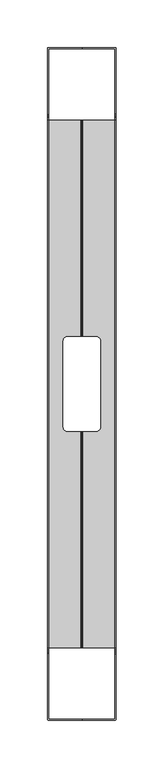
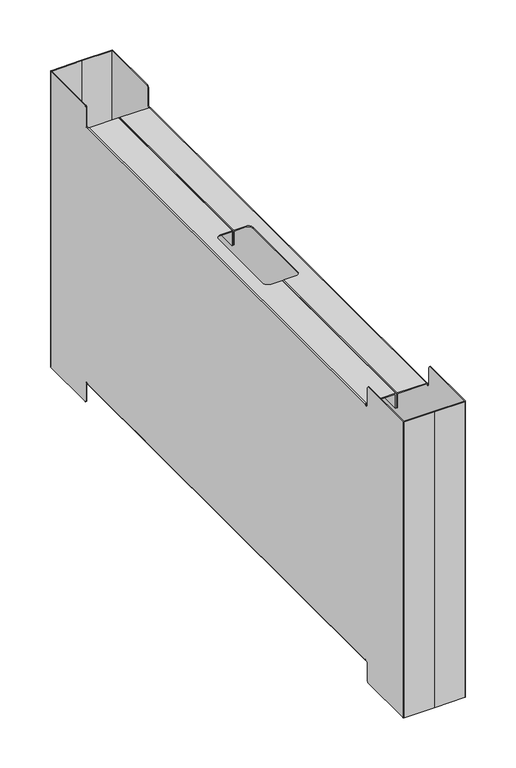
"""IFC4 building model written with IfcOpenShell, lengths in millimetres: furniture geometry, FREZZA_POP AD_Carter_for bench desk : Bracket_ZGBI - Embossed White."""

from ifc_helpers import new_model, si_unit, frame, origin, place, context, project, spatial, polyline, circle_curve, source, transform, mapped, element, save
from ifc_brep_helpers import plane_surface, cylinder_surface, revolved_surface, advanced_brep


def furniture_1b61114b(model_context):
    return source(origin(), model_context, "Body", "AdvancedBrep", [
        advanced_brep(
        [(1751.0, -237.05, 335.5), (1751.0, -237.05, 335.0), (1752.0, -237.05, 335.0), (1752.0, -237.05, 335.55), (1785.95, -237.05, 335.55), (1785.95, -237.05, 318.55), (1786.95, -237.05, 318.55), (1786.95, -237.05, 335.5), (1785.9, -237.05, 336.55), (1752.05, -237.05, 336.55), (1752.0, -237.05, 24.45), (1752.0, -237.05, 25.0), (1751.0, -237.05, 25.0), (1751.0, -237.05, 24.5), (1752.05, -237.05, 23.45), (1785.9, -237.05, 23.45), (1786.95, -237.05, 24.5), (1786.95, -237.05, 41.45), (1785.95, -237.05, 41.45), (1785.95, -237.05, 24.45), (1752.0, 316.05, 335.55), (1752.0, 316.05, 335.0), (1751.0, 316.05, 335.0), (1751.0, 316.05, 335.5), (1752.05, 316.05, 336.55), (1785.9, 316.05, 336.55), (1786.95, 316.05, 335.5), (1786.95, 316.05, 318.55), (1785.95, 316.05, 318.55), (1785.95, 316.05, 335.55), (1751.0, 316.05, 24.5), (1751.0, 316.05, 25.0), (1752.0, 316.05, 25.0), (1752.0, 316.05, 24.45), (1785.95, 316.05, 24.45), (1785.95, 316.05, 41.45), (1786.95, 316.05, 41.45), (1786.95, 316.05, 24.5), (1785.9, 316.05, 23.45), (1752.05, 316.05, 23.45), (1785.9, -10.5, 336.55), (1772.0, -10.5, 336.55), (1767.0, -5.5, 336.55), (1767.0, 84.5, 336.55), (1772.0, 89.5, 336.55), (1785.9, 89.5, 336.55), (1786.95, 89.5, 335.5), (1786.95, -10.5, 335.5), (1786.95, 89.5, 318.55), (1786.95, -10.5, 318.55), (1785.95, 89.5, 318.55), (1785.95, -10.5, 318.55), (1785.95, 89.5, 335.55), (1785.95, -10.5, 335.55), (1772.0, 89.5, 335.55), (1767.0, 84.5, 335.55), (1767.0, -5.5, 335.55), (1772.0, -10.5, 335.55), (1752.0, -239.5, 335.0), (1752.0, -241.5, 337.0), (1752.0, -241.5, 358.0), (1752.0, -243.5, 360.0), (1752.0, -312.05, 360.0), (1752.0, -312.05, 0.0), (1752.0, -243.5, 0.0), (1752.0, -241.5, 2.0), (1752.0, -241.5, 23.0), (1752.0, -239.5, 25.0), (1752.0, 318.5, 25.0), (1752.0, 320.5, 23.0), (1752.0, 320.5, 2.0), (1752.0, 322.5, 0.0), (1752.0, 391.05, 0.0), (1752.0, 391.05, 360.0), (1752.0, 322.5, 360.0), (1752.0, 320.5, 358.0), (1752.0, 320.5, 337.0), (1752.0, 318.5, 335.0), (1751.0, 318.5, 335.0), (1751.0, 320.5, 337.0), (1751.0, 320.5, 358.0), (1751.0, 322.5, 360.0), (1751.0, 391.0, 360.0), (1751.0, 391.0, 0.0), (1751.0, 322.5, 0.0), (1751.0, 320.5, 2.0), (1751.0, 320.5, 23.0), (1751.0, 318.5, 25.0), (1751.0, -239.5, 25.0), (1751.0, -241.5, 23.0), (1751.0, -241.5, 2.0), (1751.0, -243.5, 0.0), (1751.0, -312.05, 0.0), (1751.0, -312.05, 360.0), (1751.0, -243.5, 360.0), (1751.0, -241.5, 358.0), (1751.0, -241.5, 337.0), (1751.0, -239.5, 335.0), (1785.95, -10.5, 24.45), (1772.0, -10.5, 24.45), (1767.0, -5.5, 24.45), (1767.0, 84.5, 24.45), (1772.0, 89.5, 24.45), (1785.95, 89.5, 24.45), (1785.95, 89.5, 41.45), (1785.95, -10.5, 41.45), (1786.95, 89.5, 41.45), (1786.95, -10.5, 41.45), (1786.95, 89.5, 24.5), (1786.95, -10.5, 24.5), (1785.9, 89.5, 23.45), (1785.9, -10.5, 23.45), (1772.0, 89.5, 23.45), (1767.0, 84.5, 23.45), (1767.0, -5.5, 23.45), (1772.0, -10.5, 23.45), (1787.0, 391.05, 360.0), (1787.0, 392.05, 360.0), (1752.05, 392.05, 360.0), (1787.0, -313.05, 360.0), (1787.0, -312.05, 360.0), (1752.05, -313.05, 360.0), (1752.05, 392.05, 0.0), (1787.0, 392.05, 0.0), (1787.0, 391.05, 0.0), (1787.0, -313.05, 0.0), (1752.0, -313.05, 0.0), (1787.0, -312.05, 0.0)],
        [
            (0, 1),
            (1, 2),
            (2, 3),
            (3, 4),
            (4, 5),
            (5, 6),
            (6, 7),
            (7, 8, circle_curve(frame((1785.9, -237.05, 335.5), z_axis=(0.0, -1.0, 0.0), x_axis=(1.0, 0.0, 0.0)), 1.05)),
            (8, 9),
            (9, 0, circle_curve(frame((1752.05, -237.05, 335.5), z_axis=(0.0, -1.0, 0.0), x_axis=(1.0, 0.0, 0.0)), 1.05)),
            (10, 11),
            (11, 12),
            (12, 13),
            (13, 14, circle_curve(frame((1752.05, -237.05, 24.5), z_axis=(0.0, -1.0, 0.0), x_axis=(1.0, 0.0, 0.0)), 1.05)),
            (14, 15),
            (15, 16, circle_curve(frame((1785.9, -237.05, 24.5), z_axis=(0.0, -1.0, 0.0), x_axis=(1.0, 0.0, 0.0)), 1.05)),
            (16, 17),
            (17, 18),
            (18, 19),
            (19, 10),
            (20, 21),
            (21, 22),
            (22, 23),
            (23, 24, circle_curve(frame((1752.05, 316.05, 335.5), z_axis=(0.0, 1.0, 0.0), x_axis=(1.0, 0.0, 0.0)), 1.05)),
            (24, 25),
            (25, 26, circle_curve(frame((1785.9, 316.05, 335.5), z_axis=(0.0, 1.0, 0.0), x_axis=(1.0, 0.0, 0.0)), 1.05)),
            (26, 27),
            (27, 28),
            (28, 29),
            (29, 20),
            (30, 31),
            (31, 32),
            (32, 33),
            (33, 34),
            (34, 35),
            (35, 36),
            (36, 37),
            (37, 38, circle_curve(frame((1785.9, 316.05, 24.5), z_axis=(0.0, 1.0, 0.0), x_axis=(1.0, 0.0, 0.0)), 1.05)),
            (38, 39),
            (39, 30, circle_curve(frame((1752.05, 316.05, 24.5), z_axis=(0.0, 1.0, 0.0), x_axis=(1.0, 0.0, 0.0)), 1.05)),
            (9, 24),
            (23, 0),
            (8, 40),
            (40, 41),
            (41, 42, circle_curve(frame((1772.0, -5.5, 336.55), z_axis=(0.0, 0.0, -1.0), x_axis=(1.0, 0.0, 0.0)), 5.0)),
            (42, 43),
            (43, 44, circle_curve(frame((1772.0, 84.5, 336.55), z_axis=(0.0, 0.0, -1.0), x_axis=(1.0, 0.0, 0.0)), 5.0)),
            (44, 45),
            (45, 25),
            (45, 46, circle_curve(frame((1785.9, 89.5, 335.5), z_axis=(0.0, 1.0, 0.0), x_axis=(1.0, 0.0, 0.0)), 1.05)),
            (46, 26),
            (7, 47),
            (47, 40, circle_curve(frame((1785.9, -10.5, 335.5), z_axis=(0.0, -1.0, 0.0), x_axis=(1.0, 0.0, 0.0)), 1.05)),
            (46, 48),
            (48, 27),
            (6, 49),
            (49, 47),
            (48, 50),
            (50, 28),
            (5, 51),
            (51, 49),
            (50, 52),
            (52, 29),
            (4, 53),
            (53, 51),
            (3, 20),
            (52, 54),
            (54, 55, circle_curve(frame((1772.0, 84.5, 335.55), z_axis=(0.0, 0.0, 1.0), x_axis=(1.0, 0.0, 0.0)), 5.0)),
            (55, 56),
            (56, 57, circle_curve(frame((1772.0, -5.5, 335.55), z_axis=(0.0, 0.0, 1.0), x_axis=(1.0, 0.0, 0.0)), 5.0)),
            (57, 53),
            (2, 58),
            (58, 59, circle_curve(frame((1752.0, -239.5, 337.0), z_axis=(-1.0, 0.0, 0.0), x_axis=(0.0, 1.0, 0.0)), 2.0)),
            (59, 60),
            (60, 61, circle_curve(frame((1752.0, -243.5, 358.0), z_axis=(1.0, 0.0, 0.0), x_axis=(0.0, 1.0, 0.0)), 2.0)),
            (61, 62),
            (62, 63),
            (63, 64),
            (64, 65, circle_curve(frame((1752.0, -243.5, 2.0), z_axis=(1.0, 0.0, 0.0), x_axis=(0.0, 1.0, 0.0)), 2.0)),
            (65, 66),
            (66, 67, circle_curve(frame((1752.0, -239.5, 23.0), z_axis=(-1.0, 0.0, 0.0), x_axis=(0.0, 1.0, 0.0)), 2.0)),
            (67, 11),
            (10, 33),
            (32, 68),
            (68, 69, circle_curve(frame((1752.0, 318.5, 23.0), z_axis=(-1.0, 0.0, 0.0), x_axis=(0.0, 1.0, 0.0)), 2.0)),
            (69, 70),
            (70, 71, circle_curve(frame((1752.0, 322.5, 2.0), z_axis=(1.0, 0.0, 0.0), x_axis=(0.0, 1.0, 0.0)), 2.0)),
            (71, 72),
            (72, 73),
            (73, 74),
            (74, 75, circle_curve(frame((1752.0, 322.5, 358.0), z_axis=(1.0, 0.0, 0.0), x_axis=(0.0, 1.0, 0.0)), 2.0)),
            (75, 76),
            (76, 77, circle_curve(frame((1752.0, 318.5, 337.0), z_axis=(-1.0, 0.0, 0.0), x_axis=(0.0, 1.0, 0.0)), 2.0)),
            (77, 21),
            (22, 78),
            (78, 79, circle_curve(frame((1751.0, 318.5, 337.0), z_axis=(1.0, 0.0, 0.0), x_axis=(0.0, 1.0, 0.0)), 2.0)),
            (79, 80),
            (80, 81, circle_curve(frame((1751.0, 322.5, 358.0), z_axis=(-1.0, 0.0, 0.0), x_axis=(0.0, 1.0, 0.0)), 2.0)),
            (81, 82),
            (82, 83),
            (83, 84),
            (84, 85, circle_curve(frame((1751.0, 322.5, 2.0), z_axis=(-1.0, 0.0, 0.0), x_axis=(0.0, 1.0, 0.0)), 2.0)),
            (85, 86),
            (86, 87, circle_curve(frame((1751.0, 318.5, 23.0), z_axis=(1.0, 0.0, 0.0), x_axis=(0.0, 1.0, 0.0)), 2.0)),
            (87, 31),
            (30, 13),
            (12, 88),
            (88, 89, circle_curve(frame((1751.0, -239.5, 23.0), z_axis=(1.0, 0.0, 0.0), x_axis=(0.0, 1.0, 0.0)), 2.0)),
            (89, 90),
            (90, 91, circle_curve(frame((1751.0, -243.5, 2.0), z_axis=(-1.0, 0.0, 0.0), x_axis=(0.0, 1.0, 0.0)), 2.0)),
            (91, 92),
            (92, 93),
            (93, 94),
            (94, 95, circle_curve(frame((1751.0, -243.5, 358.0), z_axis=(-1.0, 0.0, 0.0), x_axis=(0.0, 1.0, 0.0)), 2.0)),
            (95, 96),
            (96, 97, circle_curve(frame((1751.0, -239.5, 337.0), z_axis=(1.0, 0.0, 0.0), x_axis=(0.0, 1.0, 0.0)), 2.0)),
            (97, 1),
            (19, 98),
            (98, 99),
            (99, 100, circle_curve(frame((1772.0, -5.5, 24.45), z_axis=(0.0, 0.0, -1.0), x_axis=(1.0, 0.0, 0.0)), 5.0)),
            (100, 101),
            (101, 102, circle_curve(frame((1772.0, 84.5, 24.45), z_axis=(0.0, 0.0, -1.0), x_axis=(1.0, 0.0, 0.0)), 5.0)),
            (102, 103),
            (103, 34),
            (103, 104),
            (104, 35),
            (18, 105),
            (105, 98),
            (104, 106),
            (106, 36),
            (17, 107),
            (107, 105),
            (106, 108),
            (108, 37),
            (16, 109),
            (109, 107),
            (108, 110, circle_curve(frame((1785.9, 89.5, 24.5), z_axis=(0.0, 1.0, 0.0), x_axis=(1.0, 0.0, 0.0)), 1.05)),
            (110, 38),
            (15, 111),
            (111, 109, circle_curve(frame((1785.9, -10.5, 24.5), z_axis=(0.0, -1.0, 0.0), x_axis=(1.0, 0.0, 0.0)), 1.05)),
            (14, 39),
            (110, 112),
            (112, 113, circle_curve(frame((1772.0, 84.5, 23.45), z_axis=(0.0, 0.0, 1.0), x_axis=(1.0, 0.0, 0.0)), 5.0)),
            (113, 114),
            (114, 115, circle_curve(frame((1772.0, -5.5, 23.45), z_axis=(0.0, 0.0, 1.0), x_axis=(1.0, 0.0, 0.0)), 5.0)),
            (115, 111),
            (54, 44),
            (43, 55),
            (112, 102),
            (101, 113),
            (57, 41),
            (115, 99),
            (56, 42),
            (114, 100),
            (81, 74),
            (73, 116),
            (116, 117),
            (117, 118),
            (118, 82, circle_curve(frame((1752.05, 391.0, 360.0), z_axis=(0.0, 0.0, 1.0), x_axis=(1.0, 0.0, 0.0)), 1.05)),
            (119, 120),
            (120, 62),
            (61, 94),
            (93, 121, circle_curve(frame((1752.05, -312.0, 360.0), z_axis=(0.0, 0.0, 1.0), x_axis=(1.0, 0.0, 0.0)), 1.05)),
            (121, 119),
            (71, 84),
            (83, 122, circle_curve(frame((1752.05, 391.0, 0.0), z_axis=(0.0, 0.0, -1.0), x_axis=(1.0, 0.0, 0.0)), 1.05)),
            (122, 123),
            (123, 124),
            (124, 72),
            (125, 126),
            (126, 92, circle_curve(frame((1752.05, -312.0, 0.0), z_axis=(0.0, 0.0, -1.0), x_axis=(1.0, 0.0, 0.0)), 1.05)),
            (91, 64),
            (63, 127),
            (127, 125),
            (121, 126),
            (125, 119),
            (118, 122),
            (117, 123),
            (116, 124),
            (120, 127),
            (60, 95),
            (59, 96),
            (58, 97),
            (77, 78),
            (76, 79),
            (75, 80),
            (70, 85),
            (69, 86),
            (68, 87),
            (67, 88),
            (66, 89),
            (65, 90),
        ],
        [
            plane_surface(frame((1787.0, -237.05, 0.0), z_axis=(0.0, -1.0, 0.0), x_axis=(0.0, 0.0, 1.0))),
            plane_surface(frame((1787.0, 316.05, 0.0), z_axis=(0.0, 1.0, 0.0), x_axis=(0.0, 0.0, 1.0))),
            cylinder_surface(frame((1752.05, -237.05, 335.5), z_axis=(0.0, -1.0, 0.0), x_axis=(1.0, 0.0, 0.0)), 1.05),
            plane_surface(frame((1752.05, -237.05, 336.55), z_axis=(0.0, 0.0, 1.0), x_axis=(0.0, 1.0, 0.0))),
            cylinder_surface(frame((1785.9, -237.05, 335.5), z_axis=(0.0, -1.0, 0.0), x_axis=(1.0, 0.0, 0.0)), 1.05),
            plane_surface(frame((1786.95, -237.05, 335.5), z_axis=(1.0, 0.0, 0.0), x_axis=(0.0, 1.0, 0.0))),
            plane_surface(frame((1786.95, -237.05, 318.55), z_axis=(0.0, 0.0, -1.0), x_axis=(0.0, 1.0, 0.0))),
            plane_surface(frame((1785.95, -237.05, 318.55), z_axis=(-1.0, 0.0, 0.0), x_axis=(0.0, 1.0, 0.0))),
            plane_surface(frame((1785.95, -237.05, 335.55), z_axis=(0.0, 0.0, -1.0), x_axis=(0.0, 1.0, 0.0))),
            plane_surface(frame((1752.0, -237.05, 335.55), z_axis=(1.0, 0.0, 0.0), x_axis=(0.0, 1.0, 0.0))),
            plane_surface(frame((1751.0, -237.05, 334.55), z_axis=(-1.0, 0.0, 0.0), x_axis=(0.0, 1.0, 0.0))),
            plane_surface(frame((1752.0, -237.05, 24.45), z_axis=(0.0, 0.0, 1.0), x_axis=(0.0, 1.0, 0.0))),
            plane_surface(frame((1785.95, -237.05, 24.45), z_axis=(-1.0, 0.0, 0.0), x_axis=(0.0, 1.0, 0.0))),
            plane_surface(frame((1785.95, -237.05, 41.45), z_axis=(0.0, 0.0, 1.0), x_axis=(0.0, 1.0, 0.0))),
            plane_surface(frame((1786.95, -237.05, 41.45), z_axis=(1.0, 0.0, 0.0), x_axis=(0.0, 1.0, 0.0))),
            cylinder_surface(frame((1785.9, -237.05, 24.5), z_axis=(0.0, -1.0, 0.0), x_axis=(1.0, 0.0, 0.0)), 1.05),
            plane_surface(frame((1785.9, -237.05, 23.45), z_axis=(0.0, 0.0, -1.0), x_axis=(0.0, 1.0, 0.0))),
            cylinder_surface(frame((1752.05, -237.05, 24.5), z_axis=(0.0, -1.0, 0.0), x_axis=(1.0, 0.0, 0.0)), 1.05),
            revolved_surface(polyline([(1777.0, 84.5, 336.55), (1777.0, 84.5, 335.55)]), (1772.0, 84.5, 0.0), (0.0, 0.0, 1.0)),
            revolved_surface(polyline([(1777.0, 84.5, 24.45), (1777.0, 84.5, 23.45)]), (1772.0, 84.5, 0.0), (0.0, 0.0, 1.0)),
            plane_surface(frame((1772.0, 89.5, 360.0), z_axis=(0.0, -1.0, 0.0), x_axis=(0.0, 0.0, -1.0))),
            plane_surface(frame((1802.0, -10.5, 360.0), z_axis=(0.0, 1.0, 0.0), x_axis=(0.0, 0.0, -1.0))),
            revolved_surface(polyline([(1777.0, -5.5, 336.55), (1777.0, -5.5, 335.55)]), (1772.0, -5.5, 0.0), (0.0, 0.0, 1.0)),
            revolved_surface(polyline([(1777.0, -5.5, 24.45), (1777.0, -5.5, 23.45)]), (1772.0, -5.5, 0.0), (0.0, 0.0, 1.0)),
            plane_surface(frame((1767.0, -5.5, 360.0), z_axis=(1.0, 0.0, 0.0), x_axis=(0.0, 0.0, -1.0))),
            plane_surface(frame((1752.0, -313.05, 360.0), z_axis=(0.0, 0.0, 1.0), x_axis=(-1.0, 0.0, 0.0))),
            plane_surface(frame((1752.0, -313.05, 0.0), z_axis=(0.0, 0.0, -1.0), x_axis=(1.0, 0.0, 0.0))),
            plane_surface(frame((1787.0, -313.05, 360.0), z_axis=(0.0, -1.0, 0.0), x_axis=(0.0, 0.0, -1.0))),
            cylinder_surface(frame((1752.05, -312.0, 0.0), z_axis=(0.0, 0.0, 1.0), x_axis=(1.0, 0.0, 0.0)), 1.05),
            cylinder_surface(frame((1752.05, 391.0, 0.0), z_axis=(0.0, 0.0, 1.0), x_axis=(1.0, 0.0, 0.0)), 1.05),
            plane_surface(frame((1752.05, 392.05, 360.0), z_axis=(0.0, 1.0, 0.0), x_axis=(0.0, 0.0, -1.0))),
            plane_surface(frame((1787.0, 392.05, 360.0), z_axis=(1.0, 0.0, 0.0), x_axis=(0.0, 0.0, -1.0))),
            plane_surface(frame((1787.0, 391.05, 360.0), z_axis=(0.0, -1.0, 0.0), x_axis=(0.0, 0.0, -1.0))),
            plane_surface(frame((1752.0, -312.05, 360.0), z_axis=(0.0, 1.0, 0.0), x_axis=(0.0, 0.0, -1.0))),
            plane_surface(frame((1787.0, -312.05, 360.0), z_axis=(1.0, 0.0, 0.0), x_axis=(0.0, 0.0, -1.0))),
            cylinder_surface(frame((1827.0, -243.5, 358.0), z_axis=(1.0, 0.0, 0.0), x_axis=(0.0, 1.0, 0.0)), 2.0),
            plane_surface(frame((1747.0, -241.5, 358.0), z_axis=(0.0, 1.0, 0.0), x_axis=(1.0, 0.0, 0.0))),
            revolved_surface(polyline([(1751.0, -237.5, 337.0), (1752.0, -237.5, 337.0)]), (1827.0, -239.5, 337.0), (-1.0, 0.0, 0.0)),
            plane_surface(frame((1747.0, -239.5, 335.0), z_axis=(0.0, 0.0, 1.0), x_axis=(1.0, 0.0, 0.0))),
            revolved_surface(polyline([(1751.0, 320.5, 337.0), (1752.0, 320.5, 337.0)]), (1827.0, 318.5, 337.0), (-1.0, 0.0, 0.0)),
            plane_surface(frame((1747.0, 320.5, 337.0), z_axis=(0.0, -1.0, 0.0), x_axis=(1.0, 0.0, 0.0))),
            cylinder_surface(frame((1827.0, 322.5, 358.0), z_axis=(1.0, 0.0, 0.0), x_axis=(0.0, 1.0, 0.0)), 2.0),
            cylinder_surface(frame((1747.0, 322.5, 2.0), z_axis=(1.0, 0.0, 0.0), x_axis=(0.0, 1.0, 0.0)), 2.0),
            plane_surface(frame((1747.0, 320.5, 2.0), z_axis=(0.0, -1.0, 0.0), x_axis=(1.0, 0.0, 0.0))),
            revolved_surface(polyline([(1751.0, 320.5, 23.0), (1752.0, 320.5, 23.0)]), (1747.0, 318.5, 23.0), (-1.0, 0.0, 0.0)),
            plane_surface(frame((1747.0, 318.5, 25.0), z_axis=(0.0, 0.0, -1.0), x_axis=(1.0, 0.0, 0.0))),
            revolved_surface(polyline([(1751.0, -237.5, 23.0), (1752.0, -237.5, 23.0)]), (1747.0, -239.5, 23.0), (-1.0, 0.0, 0.0)),
            plane_surface(frame((1747.0, -241.5, 23.0), z_axis=(0.0, 1.0, 0.0), x_axis=(1.0, 0.0, 0.0))),
            cylinder_surface(frame((1747.0, -243.5, 2.0), z_axis=(1.0, 0.0, 0.0), x_axis=(0.0, 1.0, 0.0)), 2.0),
        ],
        [
            (0, [[1, 2, 3, 4, 5, 6, 7, 8, 9, 10]]),
            (0, [[11, 12, 13, 14, 15, 16, 17, 18, 19, 20]]),
            (1, [[21, 22, 23, 24, 25, 26, 27, 28, 29, 30]]),
            (1, [[31, 32, 33, 34, 35, 36, 37, 38, 39, 40]]),
            (2, [[41, -24, 42, -10]]),
            (3, [[43, 44, 45, 46, 47, 48, 49, -25, -41, -9]]),
            (4, [[-49, 50, 51, -26]]),
            (4, [[52, 53, -43, -8]]),
            (5, [[-51, 54, 55, -27]]),
            (5, [[56, 57, -52, -7]]),
            (6, [[-55, 58, 59, -28]]),
            (6, [[60, 61, -56, -6]]),
            (7, [[-59, 62, 63, -29]]),
            (7, [[64, 65, -60, -5]]),
            (8, [[66, -30, -63, 67, 68, 69, 70, 71, -64, -4]]),
            (9, [[-3, 72, 73, 74, 75, 76, 77, 78, 79, 80, 81, 82, -11, 83, -33, 84, 85, 86, 87, 88, 89, 90, 91, 92, 93, 94, -21, -66]]),
            (10, [[-23, 95, 96, 97, 98, 99, 100, 101, 102, 103, 104, 105, -31, 106, -13, 107, 108, 109, 110, 111, 112, 113, 114, 115, 116, 117, -1, -42]]),
            (11, [[118, 119, 120, 121, 122, 123, 124, -34, -83, -20]]),
            (12, [[-124, 125, 126, -35]]),
            (12, [[127, 128, -118, -19]]),
            (13, [[-126, 129, 130, -36]]),
            (13, [[131, 132, -127, -18]]),
            (14, [[-130, 133, 134, -37]]),
            (14, [[135, 136, -131, -17]]),
            (15, [[-134, 137, 138, -38]]),
            (15, [[139, 140, -135, -16]]),
            (16, [[141, -39, -138, 142, 143, 144, 145, 146, -139, -15]]),
            (17, [[-106, -40, -141, -14]]),
            (18, [[-68, 147, -47, 148]]),
            (19, [[-143, 149, -122, 150]]),
            (20, [[-67, -62, -58, -54, -50, -48, -147]]),
            (20, [[-142, -137, -133, -129, -125, -123, -149]]),
            (21, [[-44, -53, -57, -61, -65, -71, 151]]),
            (21, [[-119, -128, -132, -136, -140, -146, 152]]),
            (22, [[-70, 153, -45, -151]]),
            (23, [[-145, 154, -120, -152]]),
            (24, [[-46, -153, -69, -148]]),
            (24, [[-121, -154, -144, -150]]),
            (25, [[-99, 155, -90, 156, 157, 158, 159]]),
            (25, [[160, 161, -76, 162, -113, 163, 164]]),
            (26, [[-88, 165, -101, 166, 167, 168, 169]]),
            (26, [[170, 171, -111, 172, -78, 173, 174]]),
            (27, [[175, -170, 176, -164]]),
            (28, [[-112, -171, -175, -163]]),
            (29, [[177, -166, -100, -159]]),
            (30, [[178, -167, -177, -158]]),
            (31, [[179, -168, -178, -157]]),
            (32, [[-89, -169, -179, -156]]),
            (33, [[180, -173, -77, -161]]),
            (34, [[-176, -174, -180, -160]]),
            (35, [[-114, -162, -75, 181]]),
            (36, [[-74, 182, -115, -181]]),
            (37, [[-73, 183, -116, -182]]),
            (38, [[-72, -2, -117, -183]]),
            (38, [[-95, -22, -94, 184]]),
            (39, [[-93, 185, -96, -184]]),
            (40, [[-92, 186, -97, -185]]),
            (41, [[-91, -155, -98, -186]]),
            (42, [[-102, -165, -87, 187]]),
            (43, [[-86, 188, -103, -187]]),
            (44, [[-85, 189, -104, -188]]),
            (45, [[-84, -32, -105, -189]]),
            (45, [[-107, -12, -82, 190]]),
            (46, [[-81, 191, -108, -190]]),
            (47, [[-80, 192, -109, -191]]),
            (48, [[-79, -172, -110, -192]]),
        ],
    ),
        advanced_brep(
        [(1802.0, 89.5, 336.55), (1788.1, 89.5, 336.55), (1787.05, 89.5, 335.5), (1787.05, 89.5, 318.55), (1788.05, 89.5, 318.55), (1788.05, 89.5, 335.55), (1802.0, 89.5, 335.55), (1802.0, 89.5, 24.45), (1788.05, 89.5, 24.45), (1788.05, 89.5, 41.45), (1787.05, 89.5, 41.45), (1787.05, 89.5, 24.5), (1788.1, 89.5, 23.45), (1802.0, 89.5, 23.45), (1807.0, 84.5, 335.55), (1807.0, 84.5, 336.55), (1807.0, 84.5, 23.45), (1807.0, 84.5, 24.45), (1807.0, -5.5, 335.55), (1807.0, -5.5, 336.55), (1807.0, -5.5, 23.45), (1807.0, -5.5, 24.45), (1802.0, -10.5, 335.55), (1802.0, -10.5, 336.55), (1802.0, -10.5, 23.45), (1802.0, -10.5, 24.45), (1788.05, -10.5, 335.55), (1788.05, -10.5, 318.55), (1787.05, -10.5, 318.55), (1787.05, -10.5, 335.5), (1788.1, -10.5, 336.55), (1788.1, -10.5, 23.45), (1787.05, -10.5, 24.5), (1787.05, -10.5, 41.45), (1788.05, -10.5, 41.45), (1788.05, -10.5, 24.45), (1822.0, -237.05, 335.55), (1822.0, -237.05, 335.0), (1823.0, -237.05, 335.0), (1823.0, -237.05, 335.5), (1821.95, -237.05, 336.55), (1788.1, -237.05, 336.55), (1787.05, -237.05, 335.5), (1787.05, -237.05, 318.55), (1788.05, -237.05, 318.55), (1788.05, -237.05, 335.55), (1823.0, -237.05, 24.5), (1823.0, -237.05, 25.0), (1822.0, -237.05, 25.0), (1822.0, -237.05, 24.45), (1788.05, -237.05, 24.45), (1788.05, -237.05, 41.45), (1787.05, -237.05, 41.45), (1787.05, -237.05, 24.5), (1788.1, -237.05, 23.45), (1821.95, -237.05, 23.45), (1823.0, 316.05, 335.5), (1823.0, 316.05, 335.0), (1822.0, 316.05, 335.0), (1822.0, 316.05, 335.55), (1788.05, 316.05, 335.55), (1788.05, 316.05, 318.55), (1787.05, 316.05, 318.55), (1787.05, 316.05, 335.5), (1788.1, 316.05, 336.55), (1821.95, 316.05, 336.55), (1822.0, 316.05, 24.45), (1822.0, 316.05, 25.0), (1823.0, 316.05, 25.0), (1823.0, 316.05, 24.5), (1821.95, 316.05, 23.45), (1788.1, 316.05, 23.45), (1787.05, 316.05, 24.5), (1787.05, 316.05, 41.45), (1788.05, 316.05, 41.45), (1788.05, 316.05, 24.45), (1822.0, 318.5, 335.0), (1822.0, 320.5, 337.0), (1822.0, 320.5, 358.0), (1822.0, 322.5, 360.0), (1822.0, 391.05, 360.0), (1822.0, 391.05, 0.0), (1822.0, 322.5, 0.0), (1822.0, 320.5, 2.0), (1822.0, 320.5, 23.0), (1822.0, 318.5, 25.0), (1822.0, -239.5, 25.0), (1822.0, -241.5, 23.0), (1822.0, -241.5, 2.0), (1822.0, -243.5, 0.0), (1822.0, -312.05, 0.0), (1822.0, -312.05, 360.0), (1822.0, -243.5, 360.0), (1822.0, -241.5, 358.0), (1822.0, -241.5, 337.0), (1822.0, -239.5, 335.0), (1823.0, -239.5, 335.0), (1823.0, -241.5, 337.0), (1823.0, -241.5, 358.0), (1823.0, -243.5, 360.0), (1823.0, -312.05, 360.0), (1823.0, -312.0, 0.0), (1823.0, -243.5, 0.0), (1823.0, -241.5, 2.0), (1823.0, -241.5, 23.0), (1823.0, -239.5, 25.0), (1823.0, 318.5, 25.0), (1823.0, 320.5, 23.0), (1823.0, 320.5, 2.0), (1823.0, 322.5, 0.0), (1823.0, 391.0, 0.0), (1823.0, 391.0, 360.0), (1823.0, 322.5, 360.0), (1823.0, 320.5, 358.0), (1823.0, 320.5, 337.0), (1823.0, 318.5, 335.0), (1821.95, 392.05, 360.0), (1787.0, 392.05, 360.0), (1787.0, 391.05, 360.0), (1787.0, -313.05, 360.0), (1822.0, -313.05, 360.0), (1787.0, -312.05, 360.0), (1787.0, 391.05, 0.0), (1787.0, 392.05, 0.0), (1821.95, 392.05, 0.0), (1787.0, -313.05, 0.0), (1787.0, -312.05, 0.0), (1821.95, -313.05, 0.0)],
        [
            (0, 1),
            (1, 2, circle_curve(frame((1788.1, 89.5, 335.5), z_axis=(0.0, -1.0, 0.0), x_axis=(1.0, 0.0, 0.0)), 1.05)),
            (2, 3),
            (3, 4),
            (4, 5),
            (5, 6),
            (6, 0),
            (7, 8),
            (8, 9),
            (9, 10),
            (10, 11),
            (11, 12, circle_curve(frame((1788.1, 89.5, 24.5), z_axis=(0.0, -1.0, 0.0), x_axis=(1.0, 0.0, 0.0)), 1.05)),
            (12, 13),
            (13, 7),
            (6, 14, circle_curve(frame((1802.0, 84.5, 335.55), z_axis=(0.0, 0.0, -1.0), x_axis=(1.0, 0.0, 0.0)), 5.0)),
            (14, 15),
            (15, 0, circle_curve(frame((1802.0, 84.5, 336.55), z_axis=(0.0, 0.0, 1.0), x_axis=(1.0, 0.0, 0.0)), 5.0)),
            (13, 16, circle_curve(frame((1802.0, 84.5, 23.45), z_axis=(0.0, 0.0, -1.0), x_axis=(1.0, 0.0, 0.0)), 5.0)),
            (16, 17),
            (17, 7, circle_curve(frame((1802.0, 84.5, 24.45), z_axis=(0.0, 0.0, 1.0), x_axis=(1.0, 0.0, 0.0)), 5.0)),
            (14, 18),
            (18, 19),
            (19, 15),
            (16, 20),
            (20, 21),
            (21, 17),
            (18, 22, circle_curve(frame((1802.0, -5.5, 335.55), z_axis=(0.0, 0.0, -1.0), x_axis=(1.0, 0.0, 0.0)), 5.0)),
            (22, 23),
            (23, 19, circle_curve(frame((1802.0, -5.5, 336.55), z_axis=(0.0, 0.0, 1.0), x_axis=(1.0, 0.0, 0.0)), 5.0)),
            (20, 24, circle_curve(frame((1802.0, -5.5, 23.45), z_axis=(0.0, 0.0, -1.0), x_axis=(1.0, 0.0, 0.0)), 5.0)),
            (24, 25),
            (25, 21, circle_curve(frame((1802.0, -5.5, 24.45), z_axis=(0.0, 0.0, 1.0), x_axis=(1.0, 0.0, 0.0)), 5.0)),
            (22, 26),
            (26, 27),
            (27, 28),
            (28, 29),
            (29, 30, circle_curve(frame((1788.1, -10.5, 335.5), z_axis=(0.0, 1.0, 0.0), x_axis=(1.0, 0.0, 0.0)), 1.05)),
            (30, 23),
            (24, 31),
            (31, 32, circle_curve(frame((1788.1, -10.5, 24.5), z_axis=(0.0, 1.0, 0.0), x_axis=(1.0, 0.0, 0.0)), 1.05)),
            (32, 33),
            (33, 34),
            (34, 35),
            (35, 25),
            (36, 37),
            (37, 38),
            (38, 39),
            (39, 40, circle_curve(frame((1821.95, -237.05, 335.5), z_axis=(0.0, -1.0, 0.0), x_axis=(1.0, 0.0, 0.0)), 1.05)),
            (40, 41),
            (41, 42, circle_curve(frame((1788.1, -237.05, 335.5), z_axis=(0.0, -1.0, 0.0), x_axis=(1.0, 0.0, 0.0)), 1.05)),
            (42, 43),
            (43, 44),
            (44, 45),
            (45, 36),
            (46, 47),
            (47, 48),
            (48, 49),
            (49, 50),
            (50, 51),
            (51, 52),
            (52, 53),
            (53, 54, circle_curve(frame((1788.1, -237.05, 24.5), z_axis=(0.0, -1.0, 0.0), x_axis=(1.0, 0.0, 0.0)), 1.05)),
            (54, 55),
            (55, 46, circle_curve(frame((1821.95, -237.05, 24.5), z_axis=(0.0, -1.0, 0.0), x_axis=(1.0, 0.0, 0.0)), 1.05)),
            (56, 57),
            (57, 58),
            (58, 59),
            (59, 60),
            (60, 61),
            (61, 62),
            (62, 63),
            (63, 64, circle_curve(frame((1788.1, 316.05, 335.5), z_axis=(0.0, 1.0, 0.0), x_axis=(1.0, 0.0, 0.0)), 1.05)),
            (64, 65),
            (65, 56, circle_curve(frame((1821.95, 316.05, 335.5), z_axis=(0.0, 1.0, 0.0), x_axis=(1.0, 0.0, 0.0)), 1.05)),
            (66, 67),
            (67, 68),
            (68, 69),
            (69, 70, circle_curve(frame((1821.95, 316.05, 24.5), z_axis=(0.0, 1.0, 0.0), x_axis=(1.0, 0.0, 0.0)), 1.05)),
            (70, 71),
            (71, 72, circle_curve(frame((1788.1, 316.05, 24.5), z_axis=(0.0, 1.0, 0.0), x_axis=(1.0, 0.0, 0.0)), 1.05)),
            (72, 73),
            (73, 74),
            (74, 75),
            (75, 66),
            (39, 56),
            (65, 40),
            (64, 1),
            (30, 41),
            (29, 42),
            (63, 2),
            (28, 43),
            (62, 3),
            (27, 44),
            (61, 4),
            (26, 45),
            (60, 5),
            (59, 36),
            (58, 76),
            (76, 77, circle_curve(frame((1822.0, 318.5, 337.0), z_axis=(1.0, 0.0, 0.0), x_axis=(0.0, 1.0, 0.0)), 2.0)),
            (77, 78),
            (78, 79, circle_curve(frame((1822.0, 322.5, 358.0), z_axis=(-1.0, 0.0, 0.0), x_axis=(0.0, 1.0, 0.0)), 2.0)),
            (79, 80),
            (80, 81),
            (81, 82),
            (82, 83, circle_curve(frame((1822.0, 322.5, 2.0), z_axis=(-1.0, 0.0, 0.0), x_axis=(0.0, 1.0, 0.0)), 2.0)),
            (83, 84),
            (84, 85, circle_curve(frame((1822.0, 318.5, 23.0), z_axis=(1.0, 0.0, 0.0), x_axis=(0.0, 1.0, 0.0)), 2.0)),
            (85, 67),
            (66, 49),
            (48, 86),
            (86, 87, circle_curve(frame((1822.0, -239.5, 23.0), z_axis=(1.0, 0.0, 0.0), x_axis=(0.0, 1.0, 0.0)), 2.0)),
            (87, 88),
            (88, 89, circle_curve(frame((1822.0, -243.5, 2.0), z_axis=(-1.0, 0.0, 0.0), x_axis=(0.0, 1.0, 0.0)), 2.0)),
            (89, 90),
            (90, 91),
            (91, 92),
            (92, 93, circle_curve(frame((1822.0, -243.5, 358.0), z_axis=(-1.0, 0.0, 0.0), x_axis=(0.0, 1.0, 0.0)), 2.0)),
            (93, 94),
            (94, 95, circle_curve(frame((1822.0, -239.5, 337.0), z_axis=(1.0, 0.0, 0.0), x_axis=(0.0, 1.0, 0.0)), 2.0)),
            (95, 37),
            (38, 96),
            (96, 97, circle_curve(frame((1823.0, -239.5, 337.0), z_axis=(-1.0, 0.0, 0.0), x_axis=(0.0, 1.0, 0.0)), 2.0)),
            (97, 98),
            (98, 99, circle_curve(frame((1823.0, -243.5, 358.0), z_axis=(1.0, 0.0, 0.0), x_axis=(0.0, 1.0, 0.0)), 2.0)),
            (99, 100),
            (100, 101),
            (101, 102),
            (102, 103, circle_curve(frame((1823.0, -243.5, 2.0), z_axis=(1.0, 0.0, 0.0), x_axis=(0.0, 1.0, 0.0)), 2.0)),
            (103, 104),
            (104, 105, circle_curve(frame((1823.0, -239.5, 23.0), z_axis=(-1.0, 0.0, 0.0), x_axis=(0.0, 1.0, 0.0)), 2.0)),
            (105, 47),
            (46, 69),
            (68, 106),
            (106, 107, circle_curve(frame((1823.0, 318.5, 23.0), z_axis=(-1.0, 0.0, 0.0), x_axis=(0.0, 1.0, 0.0)), 2.0)),
            (107, 108),
            (108, 109, circle_curve(frame((1823.0, 322.5, 2.0), z_axis=(1.0, 0.0, 0.0), x_axis=(0.0, 1.0, 0.0)), 2.0)),
            (109, 110),
            (110, 111),
            (111, 112),
            (112, 113, circle_curve(frame((1823.0, 322.5, 358.0), z_axis=(1.0, 0.0, 0.0), x_axis=(0.0, 1.0, 0.0)), 2.0)),
            (113, 114),
            (114, 115, circle_curve(frame((1823.0, 318.5, 337.0), z_axis=(-1.0, 0.0, 0.0), x_axis=(0.0, 1.0, 0.0)), 2.0)),
            (115, 57),
            (75, 8),
            (35, 50),
            (34, 51),
            (74, 9),
            (33, 52),
            (73, 10),
            (32, 53),
            (72, 11),
            (31, 54),
            (71, 12),
            (70, 55),
            (92, 99),
            (98, 93),
            (97, 94),
            (96, 95),
            (115, 76),
            (114, 77),
            (113, 78),
            (112, 79),
            (82, 109),
            (108, 83),
            (107, 84),
            (106, 85),
            (105, 86),
            (104, 87),
            (103, 88),
            (102, 89),
            (111, 116, circle_curve(frame((1821.95, 391.0, 360.0), z_axis=(0.0, 0.0, 1.0), x_axis=(-1.0, 0.0, 0.0)), 1.05)),
            (116, 117),
            (117, 118),
            (118, 80),
            (119, 120),
            (120, 100, circle_curve(frame((1821.95, -312.0, 360.0), z_axis=(0.0, 0.0, 1.0), x_axis=(-1.0, 0.0, 0.0)), 1.05)),
            (91, 121),
            (121, 119),
            (81, 122),
            (122, 123),
            (123, 124),
            (124, 110, circle_curve(frame((1821.95, 391.0, 0.0), z_axis=(0.0, 0.0, -1.0), x_axis=(-1.0, 0.0, 0.0)), 1.05)),
            (125, 126),
            (126, 90),
            (101, 127, circle_curve(frame((1821.95, -312.0, 0.0), z_axis=(0.0, 0.0, -1.0), x_axis=(-1.0, 0.0, 0.0)), 1.05)),
            (127, 125),
            (119, 125),
            (127, 120),
            (124, 116),
            (123, 117),
            (122, 118),
            (126, 121),
        ],
        [
            plane_surface(frame((1772.0, 89.5, 360.0), z_axis=(0.0, -1.0, 0.0), x_axis=(0.0, 0.0, -1.0))),
            revolved_surface(polyline([(1807.0, 84.5, 336.55), (1807.0, 84.5, 335.55)]), (1802.0, 84.5, 0.0), (0.0, 0.0, 1.0)),
            revolved_surface(polyline([(1807.0, 84.5, 24.45), (1807.0, 84.5, 23.45)]), (1802.0, 84.5, 0.0), (0.0, 0.0, 1.0)),
            plane_surface(frame((1807.0, 84.5, 360.0), z_axis=(-1.0, 0.0, 0.0), x_axis=(0.0, 0.0, -1.0))),
            revolved_surface(polyline([(1807.0, -5.5, 336.55), (1807.0, -5.5, 335.55)]), (1802.0, -5.5, 0.0), (0.0, 0.0, 1.0)),
            revolved_surface(polyline([(1807.0, -5.5, 24.45), (1807.0, -5.5, 23.45)]), (1802.0, -5.5, 0.0), (0.0, 0.0, 1.0)),
            plane_surface(frame((1802.0, -10.5, 360.0), z_axis=(0.0, 1.0, 0.0), x_axis=(0.0, 0.0, -1.0))),
            plane_surface(frame((1787.0, -237.05, 0.0), z_axis=(0.0, -1.0, 0.0), x_axis=(0.0, 0.0, 1.0))),
            plane_surface(frame((1787.0, 316.05, 0.0), z_axis=(0.0, 1.0, 0.0), x_axis=(0.0, 0.0, 1.0))),
            cylinder_surface(frame((1821.95, -237.05, 335.5), z_axis=(0.0, -1.0, 0.0), x_axis=(1.0, 0.0, 0.0)), 1.05),
            plane_surface(frame((1788.1, -237.05, 336.55), z_axis=(0.0, 0.0, 1.0), x_axis=(0.0, 1.0, 0.0))),
            cylinder_surface(frame((1788.1, -237.05, 335.5), z_axis=(0.0, -1.0, 0.0), x_axis=(1.0, 0.0, 0.0)), 1.05),
            plane_surface(frame((1787.05, -237.05, 318.55), z_axis=(-1.0, 0.0, 0.0), x_axis=(0.0, 1.0, 0.0))),
            plane_surface(frame((1788.05, -237.05, 318.55), z_axis=(0.0, 0.0, -1.0), x_axis=(0.0, 1.0, 0.0))),
            plane_surface(frame((1788.05, -237.05, 335.55), z_axis=(1.0, 0.0, 0.0), x_axis=(0.0, 1.0, 0.0))),
            plane_surface(frame((1822.0, -237.05, 335.55), z_axis=(0.0, 0.0, -1.0), x_axis=(0.0, 1.0, 0.0))),
            plane_surface(frame((1822.0, -237.05, 334.55), z_axis=(-1.0, 0.0, 0.0), x_axis=(0.0, 1.0, 0.0))),
            plane_surface(frame((1823.0, -237.05, 335.5), z_axis=(1.0, 0.0, 0.0), x_axis=(0.0, 1.0, 0.0))),
            plane_surface(frame((1788.05, -237.05, 24.45), z_axis=(0.0, 0.0, 1.0), x_axis=(0.0, 1.0, 0.0))),
            plane_surface(frame((1788.05, -237.05, 41.45), z_axis=(1.0, 0.0, 0.0), x_axis=(0.0, 1.0, 0.0))),
            plane_surface(frame((1787.05, -237.05, 41.45), z_axis=(0.0, 0.0, 1.0), x_axis=(0.0, 1.0, 0.0))),
            plane_surface(frame((1787.05, -237.05, 24.5), z_axis=(-1.0, 0.0, 0.0), x_axis=(0.0, 1.0, 0.0))),
            cylinder_surface(frame((1788.1, -237.05, 24.5), z_axis=(0.0, -1.0, 0.0), x_axis=(1.0, 0.0, 0.0)), 1.05),
            plane_surface(frame((1821.95, -237.05, 23.45), z_axis=(0.0, 0.0, -1.0), x_axis=(0.0, 1.0, 0.0))),
            cylinder_surface(frame((1821.95, -237.05, 24.5), z_axis=(0.0, -1.0, 0.0), x_axis=(1.0, 0.0, 0.0)), 1.05),
            cylinder_surface(frame((1827.0, -243.5, 358.0), z_axis=(1.0, 0.0, 0.0), x_axis=(0.0, 1.0, 0.0)), 2.0),
            plane_surface(frame((1747.0, -241.5, 358.0), z_axis=(0.0, 1.0, 0.0), x_axis=(1.0, 0.0, 0.0))),
            revolved_surface(polyline([(1822.0, -237.5, 337.0), (1823.0, -237.5, 337.0)]), (1827.0, -239.5, 337.0), (-1.0, 0.0, 0.0)),
            plane_surface(frame((1747.0, -239.5, 335.0), z_axis=(0.0, 0.0, 1.0), x_axis=(1.0, 0.0, 0.0))),
            revolved_surface(polyline([(1822.0, 320.5, 337.0), (1823.0, 320.5, 337.0)]), (1827.0, 318.5, 337.0), (-1.0, 0.0, 0.0)),
            plane_surface(frame((1747.0, 320.5, 337.0), z_axis=(0.0, -1.0, 0.0), x_axis=(1.0, 0.0, 0.0))),
            cylinder_surface(frame((1827.0, 322.5, 358.0), z_axis=(1.0, 0.0, 0.0), x_axis=(0.0, 1.0, 0.0)), 2.0),
            cylinder_surface(frame((1747.0, 322.5, 2.0), z_axis=(1.0, 0.0, 0.0), x_axis=(0.0, 1.0, 0.0)), 2.0),
            plane_surface(frame((1747.0, 320.5, 2.0), z_axis=(0.0, -1.0, 0.0), x_axis=(1.0, 0.0, 0.0))),
            revolved_surface(polyline([(1822.0, 320.5, 23.0), (1823.0, 320.5, 23.0)]), (1747.0, 318.5, 23.0), (-1.0, 0.0, 0.0)),
            plane_surface(frame((1747.0, 318.5, 25.0), z_axis=(0.0, 0.0, -1.0), x_axis=(1.0, 0.0, 0.0))),
            revolved_surface(polyline([(1822.0, -237.5, 23.0), (1823.0, -237.5, 23.0)]), (1747.0, -239.5, 23.0), (-1.0, 0.0, 0.0)),
            plane_surface(frame((1747.0, -241.5, 23.0), z_axis=(0.0, 1.0, 0.0), x_axis=(1.0, 0.0, 0.0))),
            cylinder_surface(frame((1747.0, -243.5, 2.0), z_axis=(1.0, 0.0, 0.0), x_axis=(0.0, 1.0, 0.0)), 2.0),
            plane_surface(frame((1787.0, -313.05, 360.0), z_axis=(0.0, 0.0, 1.0), x_axis=(0.0, 1.0, 0.0))),
            plane_surface(frame((1787.0, -313.05, 0.0), z_axis=(0.0, 0.0, -1.0), x_axis=(0.0, -1.0, 0.0))),
            plane_surface(frame((1822.0, -313.05, 360.0), z_axis=(0.0, -1.0, 0.0), x_axis=(0.0, 0.0, -1.0))),
            cylinder_surface(frame((1821.95, -312.0, 0.0), z_axis=(0.0, 0.0, 1.0), x_axis=(-1.0, 0.0, 0.0)), 1.05),
            cylinder_surface(frame((1821.95, 391.0, 0.0), z_axis=(0.0, 0.0, 1.0), x_axis=(-1.0, 0.0, 0.0)), 1.05),
            plane_surface(frame((1787.0, 392.05, 360.0), z_axis=(0.0, 1.0, 0.0), x_axis=(0.0, 0.0, -1.0))),
            plane_surface(frame((1787.0, 391.05, 360.0), z_axis=(-1.0, 0.0, 0.0), x_axis=(0.0, 0.0, -1.0))),
            plane_surface(frame((1822.0, 391.05, 360.0), z_axis=(0.0, -1.0, 0.0), x_axis=(0.0, 0.0, -1.0))),
            plane_surface(frame((1787.0, -312.05, 360.0), z_axis=(0.0, 1.0, 0.0), x_axis=(0.0, 0.0, -1.0))),
            plane_surface(frame((1787.0, -313.05, 360.0), z_axis=(-1.0, 0.0, 0.0), x_axis=(0.0, 0.0, -1.0))),
        ],
        [
            (0, [[1, 2, 3, 4, 5, 6, 7]]),
            (0, [[8, 9, 10, 11, 12, 13, 14]]),
            (1, [[15, 16, 17, -7]]),
            (2, [[18, 19, 20, -14]]),
            (3, [[21, 22, 23, -16]]),
            (3, [[24, 25, 26, -19]]),
            (4, [[27, 28, 29, -22]]),
            (5, [[30, 31, 32, -25]]),
            (6, [[33, 34, 35, 36, 37, 38, -28]]),
            (6, [[39, 40, 41, 42, 43, 44, -31]]),
            (7, [[45, 46, 47, 48, 49, 50, 51, 52, 53, 54]]),
            (7, [[55, 56, 57, 58, 59, 60, 61, 62, 63, 64]]),
            (8, [[65, 66, 67, 68, 69, 70, 71, 72, 73, 74]]),
            (8, [[75, 76, 77, 78, 79, 80, 81, 82, 83, 84]]),
            (9, [[85, -74, 86, -48]]),
            (10, [[-86, -73, 87, -1, -17, -23, -29, -38, 88, -49]]),
            (11, [[-88, -37, 89, -50]]),
            (11, [[90, -2, -87, -72]]),
            (12, [[-89, -36, 91, -51]]),
            (12, [[92, -3, -90, -71]]),
            (13, [[-91, -35, 93, -52]]),
            (13, [[94, -4, -92, -70]]),
            (14, [[-93, -34, 95, -53]]),
            (14, [[96, -5, -94, -69]]),
            (15, [[-95, -33, -27, -21, -15, -6, -96, -68, 97, -54]]),
            (16, [[-67, 98, 99, 100, 101, 102, 103, 104, 105, 106, 107, 108, -75, 109, -57, 110, 111, 112, 113, 114, 115, 116, 117, 118, 119, 120, -45, -97]]),
            (17, [[-47, 121, 122, 123, 124, 125, 126, 127, 128, 129, 130, 131, -55, 132, -77, 133, 134, 135, 136, 137, 138, 139, 140, 141, 142, 143, -65, -85]]),
            (18, [[-109, -84, 144, -8, -20, -26, -32, -44, 145, -58]]),
            (19, [[-145, -43, 146, -59]]),
            (19, [[147, -9, -144, -83]]),
            (20, [[-146, -42, 148, -60]]),
            (20, [[149, -10, -147, -82]]),
            (21, [[-148, -41, 150, -61]]),
            (21, [[151, -11, -149, -81]]),
            (22, [[-150, -40, 152, -62]]),
            (22, [[153, -12, -151, -80]]),
            (23, [[-152, -39, -30, -24, -18, -13, -153, -79, 154, -63]]),
            (24, [[-154, -78, -132, -64]]),
            (25, [[-117, 155, -124, 156]]),
            (26, [[-123, 157, -118, -156]]),
            (27, [[-122, 158, -119, -157]]),
            (28, [[-98, -66, -143, 159]]),
            (28, [[-121, -46, -120, -158]]),
            (29, [[-142, 160, -99, -159]]),
            (30, [[-141, 161, -100, -160]]),
            (31, [[-140, 162, -101, -161]]),
            (32, [[-105, 163, -136, 164]]),
            (33, [[-135, 165, -106, -164]]),
            (34, [[-134, 166, -107, -165]]),
            (35, [[-110, -56, -131, 167]]),
            (35, [[-133, -76, -108, -166]]),
            (36, [[-130, 168, -111, -167]]),
            (37, [[-129, 169, -112, -168]]),
            (38, [[-128, 170, -113, -169]]),
            (39, [[-102, -162, -139, 171, 172, 173, 174]]),
            (39, [[175, 176, -125, -155, -116, 177, 178]]),
            (40, [[-137, -163, -104, 179, 180, 181, 182]]),
            (40, [[183, 184, -114, -170, -127, 185, 186]]),
            (41, [[187, -186, 188, -175]]),
            (42, [[-188, -185, -126, -176]]),
            (43, [[-138, -182, 189, -171]]),
            (44, [[-189, -181, 190, -172]]),
            (45, [[-190, -180, 191, -173]]),
            (46, [[-191, -179, -103, -174]]),
            (47, [[-115, -184, 192, -177]]),
            (48, [[-192, -183, -187, -178]]),
        ],
    ),
    ])


if __name__ == "__main__":
    model = new_model("IFC4")
    model_context = context("Model", 3, world=origin())
    ifc_project = project(units=[si_unit("LENGTHUNIT", "METRE", prefix="MILLI")], contexts=[model_context])
    site = spatial("IfcSite", under=ifc_project)
    building = spatial("IfcBuilding", under=site)
    placement = place(None, origin())
    furniture_shape = furniture_1b61114b(model_context)
    element("IfcFurniture", 1, ObjectType="FREZZA_POP AD_Carter_for bench desk : Bracket_ZGBI - Embossed White", at=placement, inside=building, context=model_context, shape_type="MappedRepresentation", body=[
        mapped(furniture_shape, transform((0.0, 0.0, 0.0), x_axis=(1.0, 0.0, 0.0), y_axis=(0.0, 1.0, 0.0), z_axis=(0.0, 0.0, 1.0))),
    ])
    save(model, "model.ifc")
